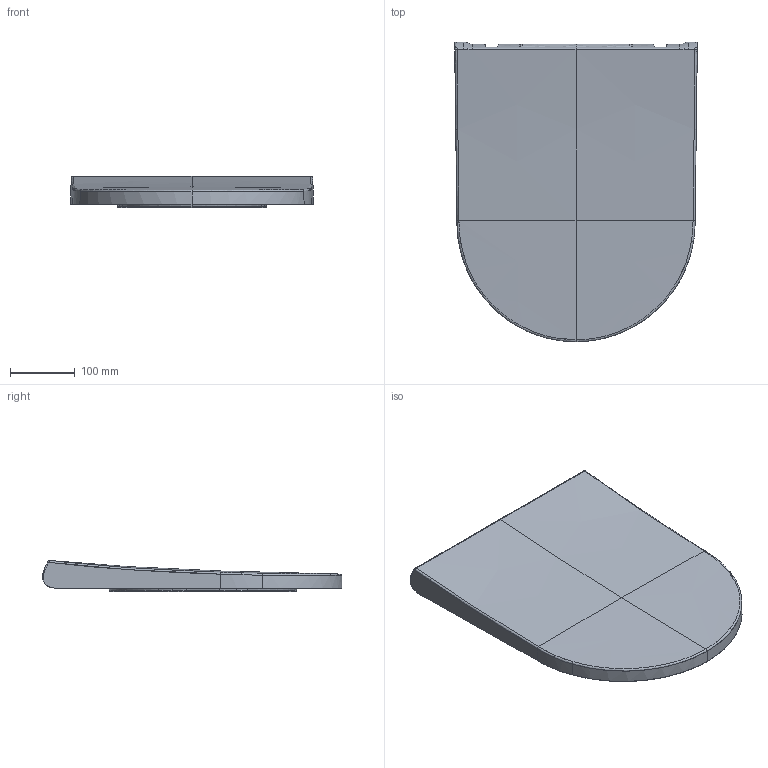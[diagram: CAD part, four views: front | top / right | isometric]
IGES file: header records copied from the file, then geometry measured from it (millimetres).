
Global section: file name: d:\users\matthias.isele\Desktop\3D\Bento\002249\3D\002249.igs; native system: Rhinoceros ( Sep 13 2016 ); preprocessor: Trout Lake IGES 012 Sep 13 2016; date: 221104.092207; units: millimetre
Bounding box: 373.43 x 461.23 x 47.76 mm (x, y, z)
Surface area: 594719.7 mm2 (no closed solid volume)
Topology: 0 solids, 0 shells, 659 faces, 15302 edges, 15302 vertices
Faces by surface type: bspline 659
